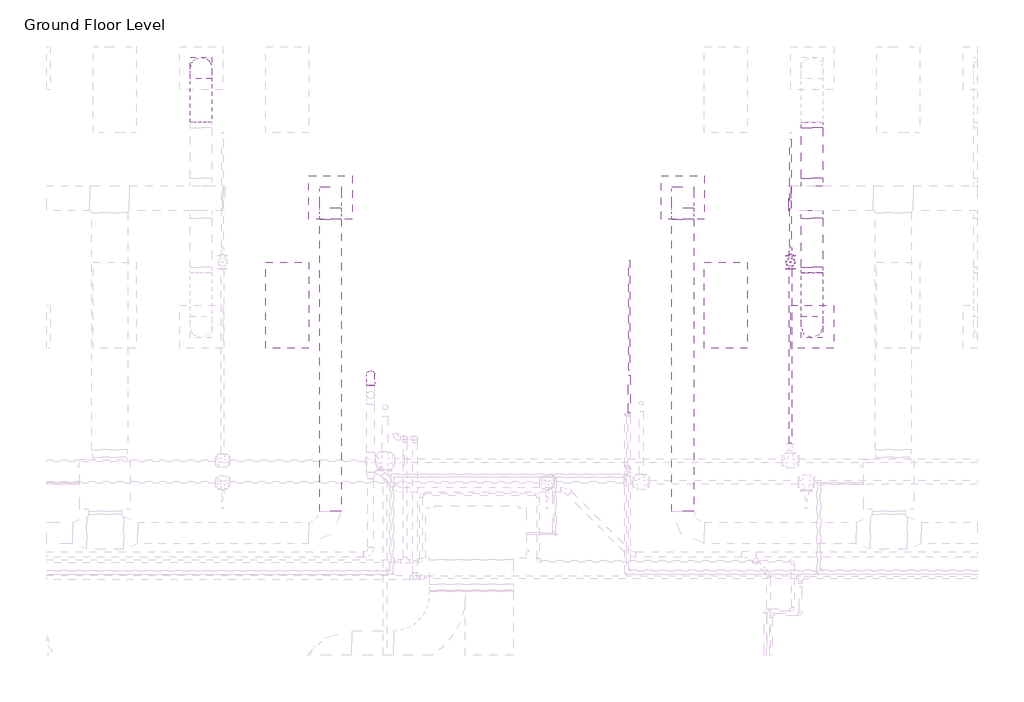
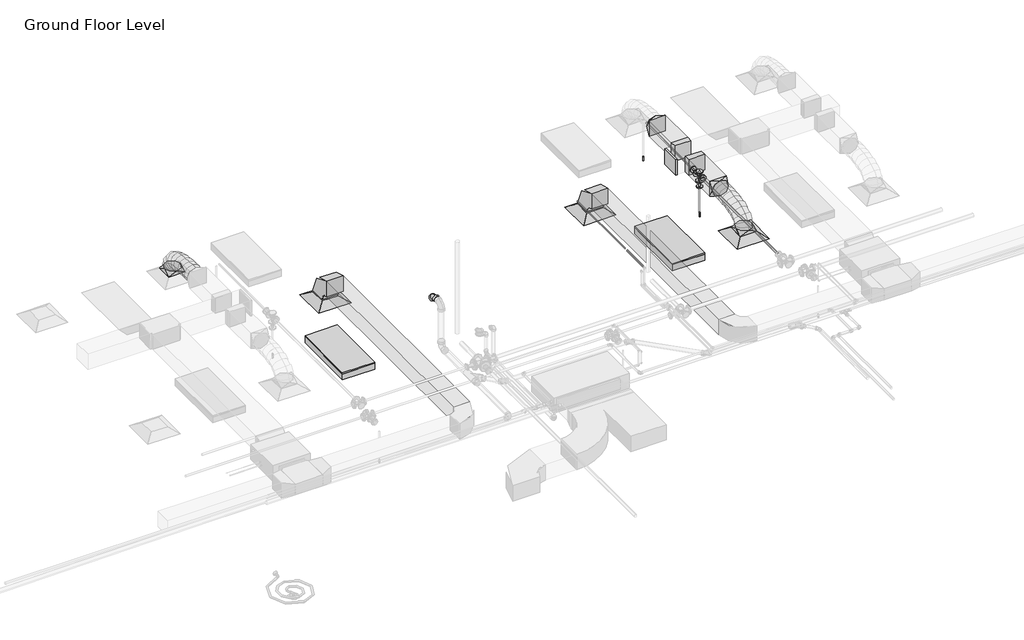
# One storey, part 58 of 74: 9 duct fittings, 8 duct segments, 6 pipe segments, 4 pipe fittings, 3 air terminals, 2 fire suppression terminals, 2 light fixtures.
"""IFC4 building model written with IfcOpenShell, lengths in millimetres."""

from ifc_helpers import new_model, si_unit, point, frame, frame_2d, origin, place, context, project, spatial, polyline, circle_curve, ellipse_curve, trimmed, segment, composite_curve, outline, extrude, transform, mapped, element, save
from ifc_brep_helpers import plane_surface, cylinder_surface, advanced_brep
from components import m_return_diffuser_600_x_600_face_300_x_300_connection_ff221211, m_rectangular_elbow_radius_1_w_618da153, m_rectangular_endcap_standard_eed78c44, m_rectangular_takeoff_standard_cb0ccb98, m_rectangular_takeoff_standard_2be5eba1, m_rectangular_to_round_transition_angle_45_degree_641efff0, m_sprinkler_dry_pendent_hosted_15_mm_dry_pendent_9bda8e11, m_troffer_light_parabolic_rectangular1_0600x1200mm_4_lamp_86473d4a, m_bend_pvc_sch_40_dwv_standard_97688ec5, m_reducer_flanged_cs_class_150_standard_d42b2106, m_tee_round_base_flanged_cs_class_150_standard_7e5987a1

model = new_model("IFC4")

# Units and contexts
model_context = context("Model", 3, world=origin())
ifc_project = project(units=[si_unit("LENGTHUNIT", "METRE", prefix="MILLI")], contexts=[model_context])

# Site, building, storey
site = spatial("IfcSite", under=ifc_project)
building = spatial("IfcBuilding", under=site)
storey = spatial("IfcBuildingStorey", under=building, Name="Ground Floor Level", Elevation=900.0)

# Air terminals
placement = place(None, origin())
m_return_diffuser_600_x_600_face_300_x_300_connection_shape = m_return_diffuser_600_x_600_face_300_x_300_connection_ff221211(model_context)
element("IfcAirTerminal", 1, ObjectType="M_Return Diffuser : 600 x 600 Face 300 x 300 Connection", at=placement, inside=storey, context=model_context, shape_type="MappedRepresentation", body=[
    mapped(m_return_diffuser_600_x_600_face_300_x_300_connection_shape, transform((-6737.2327605, 18735.2153534, 3650.0), x_axis=(1.0, 0.0, 0.0), y_axis=(0.0, 1.0, 0.0), z_axis=(0.0, 0.0, 1.0))),
])
element("IfcAirTerminal", 2, ObjectType="M_Return Diffuser : 600 x 600 Face 300 x 300 Connection", at=placement, inside=storey, context=model_context, shape_type="MappedRepresentation", body=[
    mapped(m_return_diffuser_600_x_600_face_300_x_300_connection_shape, transform((-1837.2327605, 18735.2153534, 3650.0), x_axis=(1.0, 0.0, 0.0), y_axis=(0.0, 1.0, 0.0), z_axis=(0.0, 0.0, 1.0))),
])
element("IfcAirTerminal", 3, ObjectType="M_Supply Diffuser : 600 x 600 Face 300 x 300 Connection", at=placement, inside=storey, context=model_context, shape_type="MappedRepresentation", body=[
    mapped(m_return_diffuser_600_x_600_face_300_x_300_connection_shape, transform((-37.2327605, 16935.2153534, 3650.0), x_axis=(1.0, 0.0, 0.0), y_axis=(0.0, 1.0, 0.0), z_axis=(0.0, 0.0, 1.0))),
])

# Duct fittings
m_rectangular_elbow_radius_1_w_shape = m_rectangular_elbow_radius_1_w_618da153(model_context)
element("IfcDuctFitting", 4, ObjectType="M_Rectangular Elbow - Radius : 1 W", at=placement, inside=storey, context=model_context, shape_type="MappedRepresentation", body=[
    mapped(m_rectangular_elbow_radius_1_w_shape, transform((-6737.2327605, 18735.2153534, 4075.2872564), x_axis=(0.0, 0.0, 1.0), y_axis=(0.0, -1.0, 0.0), z_axis=(1.0, 0.0, 0.0))),
])
element("IfcDuctFitting", 5, ObjectType="M_Rectangular Elbow - Radius : 1 W", at=placement, inside=storey, context=model_context, shape_type="MappedRepresentation", body=[
    mapped(m_rectangular_elbow_radius_1_w_shape, transform((-1837.2327605, 18735.2153534, 4075.2872564), x_axis=(0.0, 0.0, 1.0), y_axis=(0.0, -1.0, 0.0), z_axis=(1.0, 0.0, 0.0))),
])
m_rectangular_endcap_standard_shape = m_rectangular_endcap_standard_eed78c44(model_context)
element("IfcDuctFitting", 6, ObjectType="M_Rectangular Endcap : Standard", at=placement, inside=storey, context=model_context, shape_type="MappedRepresentation", body=[
    mapped(m_rectangular_endcap_standard_shape, transform((-337.2326293, 18724.6783949, 4099.9983101), x_axis=(-0.9999999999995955, 0.0, -8.994654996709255e-07), y_axis=(0.0, -1.0000000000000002, 0.0), z_axis=(-8.994654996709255e-07, 0.0, 0.9999999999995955))),
])
m_rectangular_takeoff_standard_shape = m_rectangular_takeoff_standard_cb0ccb98(model_context)
element("IfcDuctFitting", 7, ObjectType="M_Rectangular Takeoff : Standard", at=placement, inside=storey, context=model_context, shape_type="MappedRepresentation", body=[
    mapped(m_rectangular_takeoff_standard_shape, transform((-37.2327605, 18549.6783949, 4099.9985799), x_axis=(0.0, -1.0, 0.0), y_axis=(-1.0, 0.0, 0.0), z_axis=(0.0, 0.0, -1.0))),
])
m_rectangular_takeoff_standard_2_shape = m_rectangular_takeoff_standard_2be5eba1(model_context)
element("IfcDuctFitting", 8, ObjectType="M_Rectangular Takeoff : Standard", at=placement, inside=storey, context=model_context, shape_type="MappedRepresentation", body=[
    mapped(m_rectangular_takeoff_standard_2_shape, transform((-37.2327605, 18899.6783949, 4099.9985799), x_axis=(0.0, 1.0, 0.0), y_axis=(1.0, 0.0, 0.0), z_axis=(0.0, 0.0, -1.0))),
])
m_rectangular_to_round_transition_angle_45_degree_shape = m_rectangular_to_round_transition_angle_45_degree_641efff0(model_context)
element("IfcDuctFitting", 9, ObjectType="M_Rectangular to Round Transition - Angle : 45 Degree", at=placement, inside=storey, context=model_context, shape_type="MappedRepresentation", body=[
    mapped(m_rectangular_to_round_transition_angle_45_degree_shape, transform((-8537.2327605, 20535.2153534, 3751.6), x_axis=(0.0, 0.0, 1.0), y_axis=(-1.0, 0.0, 0.0), z_axis=(0.0, -1.0, 0.0))),
])
element("IfcDuctFitting", 10, ObjectType="M_Rectangular to Round Transition - Angle : 45 Degree", at=placement, inside=storey, context=model_context, shape_type="MappedRepresentation", body=[
    mapped(m_rectangular_to_round_transition_angle_45_degree_shape, transform((-37.2327605, 19707.878002, 4099.9985799), x_axis=(0.0, 1.0, 0.0), y_axis=(-1.0, 0.0, 0.0), z_axis=(0.0, 0.0, 1.0))),
])
element("IfcDuctFitting", 11, ObjectType="M_Rectangular to Round Transition - Angle : 45 Degree", at=placement, inside=storey, context=model_context, shape_type="MappedRepresentation", body=[
    mapped(m_rectangular_to_round_transition_angle_45_degree_shape, transform((-37.2327605, 16935.2153534, 3751.6), x_axis=(0.0, 0.0, 1.0), y_axis=(-1.0, 0.0, 0.0), z_axis=(0.0, -1.0, 0.0))),
])
element("IfcDuctFitting", 12, ObjectType="M_Rectangular to Round Transition - Angle : 45 Degree", at=placement, inside=storey, context=model_context, shape_type="MappedRepresentation", body=[
    mapped(m_rectangular_to_round_transition_angle_45_degree_shape, transform((-37.2327605, 17762.5527048, 4099.9985799), x_axis=(0.0, -1.0, 0.0), y_axis=(1.0, 0.0, 0.0), z_axis=(0.0, 0.0, 1.0))),
])

# Duct segments
element("IfcDuctSegment", 13, ObjectType="Flex - Round", at=placement, inside=storey, context=model_context, shape_type="AdvancedBrep", body=[
    advanced_brep(
    [(-8387.2327605, 20535.2153534, 3826.6), (-8537.2327605, 20385.2153534, 3826.6), (-8687.2327605, 20535.2153534, 3826.6), (-8537.2327605, 20685.2153534, 3826.6), (-8387.2327605, 20535.2153534, 3857.937778), (-8537.2327605, 20385.2153534, 3832.2944744), (-8687.2327605, 20535.2153534, 3857.937778), (-8537.2327605, 20685.2153534, 3883.5810816), (-8387.2327605, 20518.1993769, 3906.2506017), (-8537.2327605, 20384.4614978, 3834.4348684), (-8687.2327605, 20518.1993769, 3906.2506017), (-8537.2327605, 20651.937256, 3978.0663351), (-8387.2327605, 20471.0153769, 3968.7112406), (-8537.2327605, 20366.8097489, 3857.8016772), (-8687.2327605, 20471.0153769, 3968.7112406), (-8537.2327605, 20575.2210049, 4079.6208039), (-8387.2327605, 20399.4592477, 4016.0697935), (-8537.2327605, 20330.5256195, 3881.8158865), (-8687.2327605, 20399.4592477, 4016.0697935), (-8537.2327605, 20468.3928758, 4150.3237004), (-8387.2327605, 20309.3268835, 4050.4141374), (-8537.2327605, 20265.7665876, 3906.4918893), (-8687.2327605, 20309.3268835, 4050.4141374), (-8537.2327605, 20352.8871794, 4194.3363855), (-8387.2327605, 20206.4141786, 4073.8321493), (-8537.2327605, 20179.8536975, 3926.0415559), (-8687.2327605, 20206.4141786, 4073.8321493), (-8537.2327605, 20232.9746597, 4221.6227426), (-8387.2327605, 20096.5170273, 4088.411706), (-8537.2327605, 20081.3665099, 3939.1074046), (-8687.2327605, 20096.5170273, 4088.411706), (-8537.2327605, 20111.6675446, 4237.7160075), (-8387.2327605, 19985.4313238, 4096.2406846), (-8537.2327605, 19977.9262951, 3946.3975526), (-8687.2327605, 19985.4313238, 4096.2406846), (-8537.2327605, 19992.9363525, 4246.0838166), (-8387.2327605, 19878.9529624, 4099.406962), (-8537.2327605, 19876.2616453, 3949.4206879), (-8687.2327605, 19878.9529624, 4099.406962), (-8537.2327605, 19881.6442795, 4249.3932362), (-8387.2327605, 19782.8778373, 4099.9984152), (-8537.2327605, 19783.8012427, 4249.9955729), (-8687.2327605, 19782.8778373, 4099.9984152), (-8537.2327605, 19781.9544319, 3950.0012575)],
    [
        (0, 1, circle_curve(frame((-8537.2327605, 20535.2153534, 3826.6), z_axis=(0.0, 0.0, -1.0), x_axis=(1.0, 0.0, 0.0)), 150.0)),
        (1, 2, circle_curve(frame((-8537.2327605, 20535.2153534, 3826.6), z_axis=(0.0, 0.0, -1.0), x_axis=(1.0, 0.0, 0.0)), 150.0)),
        (2, 3, circle_curve(frame((-8537.2327605, 20535.2153534, 3826.6), z_axis=(0.0, 0.0, -1.0), x_axis=(1.0, 0.0, 0.0)), 150.0)),
        (3, 0, circle_curve(frame((-8537.2327605, 20535.2153534, 3826.6), z_axis=(0.0, 0.0, -1.0), x_axis=(1.0, 0.0, 0.0)), 150.0)),
        (0, 4),
        (4, 5, ellipse_curve(frame((-8537.2327605, 20535.2153534, 3857.937778), z_axis=(0.0, 0.16851066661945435, -0.985699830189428), x_axis=(0.0, -0.985699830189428, -0.16851066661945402)), 152.1761447, 150.0)),
        (5, 1),
        (5, 6, ellipse_curve(frame((-8537.2327605, 20535.2153534, 3857.937778), z_axis=(0.0, 0.16851066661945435, -0.985699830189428), x_axis=(0.0, -0.985699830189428, -0.16851066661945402)), 152.1761447, 150.0)),
        (6, 2),
        (6, 7, ellipse_curve(frame((-8537.2327605, 20535.2153534, 3857.937778), z_axis=(0.0, 0.16851066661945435, -0.985699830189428), x_axis=(0.0, -0.985699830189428, -0.16851066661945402)), 152.1761447, 150.0)),
        (7, 3),
        (7, 4, ellipse_curve(frame((-8537.2327605, 20535.2153534, 3857.937778), z_axis=(0.0, 0.16851066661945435, -0.985699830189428), x_axis=(0.0, -0.985699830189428, -0.16851066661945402)), 152.1761447, 150.0)),
        (4, 8),
        (8, 9, ellipse_curve(frame((-8537.2327605, 20518.1993769, 3906.2506017), z_axis=(0.0, 0.4730936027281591, -0.8810121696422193), x_axis=(0.0, -0.8810121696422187, -0.4730936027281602)), 151.8002631, 150.0)),
        (9, 5),
        (9, 10, ellipse_curve(frame((-8537.2327605, 20518.1993769, 3906.2506017), z_axis=(0.0, 0.4730936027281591, -0.8810121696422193), x_axis=(0.0, -0.8810121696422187, -0.4730936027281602)), 151.8002631, 150.0)),
        (10, 6),
        (10, 11, ellipse_curve(frame((-8537.2327605, 20518.1993769, 3906.2506017), z_axis=(0.0, 0.4730936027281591, -0.8810121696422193), x_axis=(0.0, -0.8810121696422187, -0.4730936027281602)), 151.8002631, 150.0)),
        (11, 7),
        (11, 8, ellipse_curve(frame((-8537.2327605, 20518.1993769, 3906.2506017), z_axis=(0.0, 0.4730936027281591, -0.8810121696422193), x_axis=(0.0, -0.8810121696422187, -0.4730936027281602)), 151.8002631, 150.0)),
        (8, 12),
        (12, 13, ellipse_curve(frame((-8537.2327605, 20471.0153769, 3968.7112406), z_axis=(0.0, 0.7287895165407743, -0.6847377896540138), x_axis=(0.0, -0.6847377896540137, -0.7287895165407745)), 152.1832584, 150.0)),
        (13, 9),
        (13, 14, ellipse_curve(frame((-8537.2327605, 20471.0153769, 3968.7112406), z_axis=(0.0, 0.7287895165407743, -0.6847377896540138), x_axis=(0.0, -0.6847377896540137, -0.7287895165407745)), 152.1832584, 150.0)),
        (14, 10),
        (14, 15, ellipse_curve(frame((-8537.2327605, 20471.0153769, 3968.7112406), z_axis=(0.0, 0.7287895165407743, -0.6847377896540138), x_axis=(0.0, -0.6847377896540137, -0.7287895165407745)), 152.1832584, 150.0)),
        (15, 11),
        (15, 12, ellipse_curve(frame((-8537.2327605, 20471.0153769, 3968.7112406), z_axis=(0.0, 0.7287895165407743, -0.6847377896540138), x_axis=(0.0, -0.6847377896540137, -0.7287895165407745)), 152.1832584, 150.0)),
        (12, 16),
        (16, 17, ellipse_curve(frame((-8537.2327605, 20399.4592477, 4016.0697935), z_axis=(0.0, 0.8895873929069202, -0.4567650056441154), x_axis=(0.0, -0.4567650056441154, -0.8895873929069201)), 150.9170521, 150.0)),
        (17, 13),
        (17, 18, ellipse_curve(frame((-8537.2327605, 20399.4592477, 4016.0697935), z_axis=(0.0, 0.8895873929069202, -0.4567650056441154), x_axis=(0.0, -0.4567650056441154, -0.8895873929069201)), 150.9170521, 150.0)),
        (18, 14),
        (18, 19, ellipse_curve(frame((-8537.2327605, 20399.4592477, 4016.0697935), z_axis=(0.0, 0.8895873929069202, -0.4567650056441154), x_axis=(0.0, -0.4567650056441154, -0.8895873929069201)), 150.9170521, 150.0)),
        (19, 15),
        (19, 16, ellipse_curve(frame((-8537.2327605, 20399.4592477, 4016.0697935), z_axis=(0.0, 0.8895873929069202, -0.4567650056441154), x_axis=(0.0, -0.4567650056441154, -0.8895873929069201)), 150.9170521, 150.0)),
        (16, 20),
        (20, 21, ellipse_curve(frame((-8537.2327605, 20309.3268835, 4050.4141374), z_axis=(0.0, 0.9571212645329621, -0.2896875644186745), x_axis=(0.0, -0.28968756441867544, -0.9571212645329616)), 150.3699202, 150.0)),
        (21, 17),
        (21, 22, ellipse_curve(frame((-8537.2327605, 20309.3268835, 4050.4141374), z_axis=(0.0, 0.9571212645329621, -0.2896875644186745), x_axis=(0.0, -0.28968756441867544, -0.9571212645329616)), 150.3699202, 150.0)),
        (22, 18),
        (22, 23, ellipse_curve(frame((-8537.2327605, 20309.3268835, 4050.4141374), z_axis=(0.0, 0.9571212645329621, -0.2896875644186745), x_axis=(0.0, -0.28968756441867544, -0.9571212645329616)), 150.3699202, 150.0)),
        (23, 19),
        (23, 20, ellipse_curve(frame((-8537.2327605, 20309.3268835, 4050.4141374), z_axis=(0.0, 0.9571212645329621, -0.2896875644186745), x_axis=(0.0, -0.28968756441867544, -0.9571212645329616)), 150.3699202, 150.0)),
        (20, 24),
        (24, 25, ellipse_curve(frame((-8537.2327605, 20206.4141786, 4073.8321493), z_axis=(0.0, 0.9842318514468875, -0.17688318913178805), x_axis=(0.0, -0.17688318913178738, -0.9842318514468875)), 150.1583119, 150.0)),
        (25, 21),
        (25, 26, ellipse_curve(frame((-8537.2327605, 20206.4141786, 4073.8321493), z_axis=(0.0, 0.9842318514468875, -0.17688318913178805), x_axis=(0.0, -0.17688318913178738, -0.9842318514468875)), 150.1583119, 150.0)),
        (26, 22),
        (26, 27, ellipse_curve(frame((-8537.2327605, 20206.4141786, 4073.8321493), z_axis=(0.0, 0.9842318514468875, -0.17688318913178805), x_axis=(0.0, -0.17688318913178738, -0.9842318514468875)), 150.1583119, 150.0)),
        (27, 23),
        (27, 24, ellipse_curve(frame((-8537.2327605, 20206.4141786, 4073.8321493), z_axis=(0.0, 0.9842318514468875, -0.17688318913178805), x_axis=(0.0, -0.17688318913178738, -0.9842318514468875)), 150.1583119, 150.0)),
        (24, 28),
        (28, 29, ellipse_curve(frame((-8537.2327605, 20096.5170273, 4088.411706), z_axis=(0.0, 0.9948909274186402, -0.10095564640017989), x_axis=(0.0, -0.10095564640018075, -0.99489092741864)), 150.0710252, 150.0)),
        (29, 25),
        (29, 30, ellipse_curve(frame((-8537.2327605, 20096.5170273, 4088.411706), z_axis=(0.0, 0.9948909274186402, -0.10095564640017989), x_axis=(0.0, -0.10095564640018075, -0.99489092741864)), 150.0710252, 150.0)),
        (30, 26),
        (30, 31, ellipse_curve(frame((-8537.2327605, 20096.5170273, 4088.411706), z_axis=(0.0, 0.9948909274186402, -0.10095564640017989), x_axis=(0.0, -0.10095564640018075, -0.99489092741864)), 150.0710252, 150.0)),
        (31, 27),
        (31, 28, ellipse_curve(frame((-8537.2327605, 20096.5170273, 4088.411706), z_axis=(0.0, 0.9948909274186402, -0.10095564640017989), x_axis=(0.0, -0.10095564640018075, -0.99489092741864)), 150.0710252, 150.0)),
        (28, 32),
        (32, 33, ellipse_curve(frame((-8537.2327605, 19985.4313238, 4096.2406846), z_axis=(0.0, 0.9987480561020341, -0.05002319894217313), x_axis=(0.0, -0.050023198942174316, -0.9987480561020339)), 150.0309623, 150.0)),
        (33, 29),
        (33, 34, ellipse_curve(frame((-8537.2327605, 19985.4313238, 4096.2406846), z_axis=(0.0, 0.9987480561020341, -0.05002319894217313), x_axis=(0.0, -0.050023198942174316, -0.9987480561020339)), 150.0309623, 150.0)),
        (34, 30),
        (34, 35, ellipse_curve(frame((-8537.2327605, 19985.4313238, 4096.2406846), z_axis=(0.0, 0.9987480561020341, -0.05002319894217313), x_axis=(0.0, -0.050023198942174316, -0.9987480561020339)), 150.0309623, 150.0)),
        (35, 31),
        (35, 32, ellipse_curve(frame((-8537.2327605, 19985.4313238, 4096.2406846), z_axis=(0.0, 0.9987480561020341, -0.05002319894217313), x_axis=(0.0, -0.050023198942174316, -0.9987480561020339)), 150.0309623, 150.0)),
        (32, 36),
        (36, 37, ellipse_curve(frame((-8537.2327605, 19878.9529624, 4099.406962), z_axis=(0.0, 0.99983904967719, -0.017940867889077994), x_axis=(0.0, -0.017940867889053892, -0.9998390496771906)), 150.0104184, 150.0)),
        (37, 33),
        (37, 38, ellipse_curve(frame((-8537.2327605, 19878.9529624, 4099.406962), z_axis=(0.0, 0.99983904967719, -0.017940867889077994), x_axis=(0.0, -0.017940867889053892, -0.9998390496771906)), 150.0104184, 150.0)),
        (38, 34),
        (38, 39, ellipse_curve(frame((-8537.2327605, 19878.9529624, 4099.406962), z_axis=(0.0, 0.99983904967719, -0.017940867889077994), x_axis=(0.0, -0.017940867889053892, -0.9998390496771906)), 150.0104184, 150.0)),
        (39, 35),
        (39, 36, ellipse_curve(frame((-8537.2327605, 19878.9529624, 4099.406962), z_axis=(0.0, 0.99983904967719, -0.017940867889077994), x_axis=(0.0, -0.017940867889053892, -0.9998390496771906)), 150.0104184, 150.0)),
        (40, 41, circle_curve(frame((-8537.2327605, 19782.8778373, 4099.9984152), z_axis=(0.0, -0.9999810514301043, 0.006156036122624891), x_axis=(1.0, 0.0, 0.0)), 150.0)),
        (41, 42, circle_curve(frame((-8537.2327605, 19782.8778373, 4099.9984152), z_axis=(0.0, -0.9999810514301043, 0.006156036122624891), x_axis=(1.0, 0.0, 0.0)), 150.0)),
        (42, 43, circle_curve(frame((-8537.2327605, 19782.8778373, 4099.9984152), z_axis=(0.0, -0.9999810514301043, 0.006156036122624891), x_axis=(1.0, 0.0, 0.0)), 150.0)),
        (43, 40, circle_curve(frame((-8537.2327605, 19782.8778373, 4099.9984152), z_axis=(0.0, -0.9999810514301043, 0.006156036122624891), x_axis=(1.0, 0.0, 0.0)), 150.0)),
        (36, 40),
        (43, 37),
        (42, 38),
        (41, 39),
    ],
    [
        plane_surface(frame((-8537.2327605, 20385.2153534, 3826.6), z_axis=(0.0, 0.0, -1.0), x_axis=(1.0, 0.0, 0.0))),
        cylinder_surface(frame((-8537.2327605, 20535.2153534, 3826.6), z_axis=(0.0, 0.0, -1.0), x_axis=(1.0, 0.0, 0.0)), 150.0),
        cylinder_surface(frame((-8537.2327605, 20535.2153534, 3857.937778), z_axis=(0.0, 0.3322018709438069, -0.9432083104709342), x_axis=(1.0, 0.0, 0.0)), 150.0),
        cylinder_surface(frame((-8537.2327605, 20518.1993769, 3906.2506017), z_axis=(0.0, 0.6027641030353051, -0.7979194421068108), x_axis=(1.0, 0.0, 0.0)), 150.0),
        cylinder_surface(frame((-8537.2327605, 20471.0153769, 3968.7112406), z_axis=(0.0, 0.8339041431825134, -0.5519093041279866), x_axis=(1.0, 0.0, 0.0)), 150.0),
        cylinder_surface(frame((-8537.2327605, 20399.4592477, 4016.0697935), z_axis=(0.0, 0.9344594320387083, -0.3560696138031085), x_axis=(1.0, 0.0, 0.0)), 150.0),
        cylinder_surface(frame((-8537.2327605, 20309.3268835, 4050.4141374), z_axis=(0.0, 0.9750739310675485, -0.22188021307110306), x_axis=(1.0, 0.0, 0.0)), 150.0),
        cylinder_surface(frame((-8537.2327605, 20206.4141786, 4073.8321493), z_axis=(0.0, 0.9913144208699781, -0.13151318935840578), x_axis=(1.0, 0.0, 0.0)), 150.0),
        cylinder_surface(frame((-8537.2327605, 20096.5170273, 4088.411706), z_axis=(0.0, 0.9975257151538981, -0.07030254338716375), x_axis=(1.0, 0.0, 0.0)), 150.0),
        cylinder_surface(frame((-8537.2327605, 19985.4313238, 4096.2406846), z_axis=(0.0, 0.9995581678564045, -0.029723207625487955), x_axis=(1.0, 0.0, 0.0)), 150.0),
        plane_surface(frame((-8537.2327605, 19781.9544319, 3950.0012575), z_axis=(0.0, -0.9999810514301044, 0.006156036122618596), x_axis=(1.0, 0.0, 0.0))),
        cylinder_surface(frame((-8537.2327605, 19878.9529624, 4099.406962), z_axis=(0.0, 0.9999810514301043, -0.006156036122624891), x_axis=(1.0, 0.0, 0.0)), 150.0),
    ],
    [
        (0, [[1, 2, 3, 4]]),
        (1, [[-1, 5, 6, 7]]),
        (1, [[-2, -7, 8, 9]]),
        (1, [[-3, -9, 10, 11]]),
        (1, [[-4, -11, 12, -5]]),
        (2, [[-6, 13, 14, 15]]),
        (2, [[-8, -15, 16, 17]]),
        (2, [[-10, -17, 18, 19]]),
        (2, [[-12, -19, 20, -13]]),
        (3, [[-14, 21, 22, 23]]),
        (3, [[-16, -23, 24, 25]]),
        (3, [[-18, -25, 26, 27]]),
        (3, [[-20, -27, 28, -21]]),
        (4, [[-22, 29, 30, 31]]),
        (4, [[-24, -31, 32, 33]]),
        (4, [[-26, -33, 34, 35]]),
        (4, [[-28, -35, 36, -29]]),
        (5, [[-30, 37, 38, 39]]),
        (5, [[-32, -39, 40, 41]]),
        (5, [[-34, -41, 42, 43]]),
        (5, [[-36, -43, 44, -37]]),
        (6, [[-38, 45, 46, 47]]),
        (6, [[-40, -47, 48, 49]]),
        (6, [[-42, -49, 50, 51]]),
        (6, [[-44, -51, 52, -45]]),
        (7, [[-46, 53, 54, 55]]),
        (7, [[-48, -55, 56, 57]]),
        (7, [[-50, -57, 58, 59]]),
        (7, [[-52, -59, 60, -53]]),
        (8, [[-54, 61, 62, 63]]),
        (8, [[-56, -63, 64, 65]]),
        (8, [[-58, -65, 66, 67]]),
        (8, [[-60, -67, 68, -61]]),
        (9, [[-62, 69, 70, 71]]),
        (9, [[-64, -71, 72, 73]]),
        (9, [[-66, -73, 74, 75]]),
        (9, [[-68, -75, 76, -69]]),
        (10, [[77, 78, 79, 80]]),
        (11, [[-70, 81, -80, 82]]),
        (11, [[-72, -82, -79, 83]]),
        (11, [[-74, -83, -78, 84]]),
        (11, [[-76, -84, -77, -81]]),
    ],
),
])
element("IfcDuctSegment", 14, ObjectType="Flex - Round", at=placement, inside=storey, context=model_context, shape_type="AdvancedBrep", body=[
    advanced_brep(
    [(112.7672395, 16935.2153534, 3826.6), (-37.2327605, 16785.2153534, 3826.6), (-187.2327605, 16935.2153534, 3826.6), (-37.2327605, 17085.2153534, 3826.6), (112.7672395, 16935.2153534, 3857.9377711), (-37.2327605, 16785.2153534, 3883.5810662), (-187.2327605, 16935.2153534, 3857.9377711), (-37.2327605, 17085.2153534, 3832.2944759), (112.7672395, 16952.2313253, 3906.2505987), (-37.2327605, 16818.4934358, 3978.0663103), (-187.2327605, 16952.2313253, 3906.2505987), (-37.2327605, 17085.9692148, 3834.4348871), (112.7672395, 16999.4153129, 3968.7112481), (-37.2327605, 16895.2096567, 4079.620783), (-187.2327605, 16999.4153129, 3968.7112481), (-37.2327605, 17103.620969, 3857.8017132), (112.7672395, 17070.9714237, 4016.0698216), (-37.2327605, 17002.0377511, 4150.3237055), (-187.2327605, 17070.9714237, 4016.0698216), (-37.2327605, 17139.9050963, 3881.8159377), (112.7672395, 17161.1037654, 4050.4141926), (-37.2327605, 17117.5434209, 4194.3364261), (-187.2327605, 17161.1037654, 4050.4141926), (-37.2327605, 17204.6641099, 3906.491959), (112.7672395, 17264.0164456, 4073.8322345), (-37.2327605, 17237.4559185, 4221.6228196), (-187.2327605, 17264.0164456, 4073.8322345), (-37.2327605, 17290.5769728, 3926.0416493), (112.7672395, 17373.9135721, 4088.4118207), (-37.2327605, 17358.7630147, 4237.7161183), (-187.2327605, 17373.9135721, 4088.4118207), (-37.2327605, 17389.0641294, 3939.1075232), (112.7672395, 17484.9992523, 4096.2408248), (-37.2327605, 17477.4941925, 4246.0839553), (-187.2327605, 17484.9992523, 4096.2408248), (-37.2327605, 17492.5043121, 3946.3976942), (112.7672395, 17591.477594, 4099.40712), (-37.2327605, 17588.7862586, 4249.393394), (-187.2327605, 17591.477594, 4099.40712), (-37.2327605, 17594.1689294, 3949.4208461), (112.7672395, 17687.5527048, 4099.9985799), (-37.2327605, 17688.4761208, 3950.0014223), (-187.2327605, 17687.5527048, 4099.9985799), (-37.2327605, 17686.6292887, 4249.9957376)],
    [
        (0, 1, circle_curve(frame((-37.2327605, 16935.2153534, 3826.6), z_axis=(0.0, 0.0, -1.0), x_axis=(1.0, 0.0, 0.0)), 150.0)),
        (1, 2, circle_curve(frame((-37.2327605, 16935.2153534, 3826.6), z_axis=(0.0, 0.0, -1.0), x_axis=(1.0, 0.0, 0.0)), 150.0)),
        (2, 3, circle_curve(frame((-37.2327605, 16935.2153534, 3826.6), z_axis=(0.0, 0.0, -1.0), x_axis=(1.0, 0.0, 0.0)), 150.0)),
        (3, 0, circle_curve(frame((-37.2327605, 16935.2153534, 3826.6), z_axis=(0.0, 0.0, -1.0), x_axis=(1.0, 0.0, 0.0)), 150.0)),
        (0, 4),
        (4, 5, ellipse_curve(frame((-37.2327605, 16935.2153534, 3857.9377711), z_axis=(0.0, -0.1685106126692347, -0.9856998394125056), x_axis=(0.0, 0.9856998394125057, -0.16851061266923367)), 152.1761433, 150.0)),
        (5, 1),
        (5, 6, ellipse_curve(frame((-37.2327605, 16935.2153534, 3857.9377711), z_axis=(0.0, -0.1685106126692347, -0.9856998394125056), x_axis=(0.0, 0.9856998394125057, -0.16851061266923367)), 152.1761433, 150.0)),
        (6, 2),
        (6, 7, ellipse_curve(frame((-37.2327605, 16935.2153534, 3857.9377711), z_axis=(0.0, -0.1685106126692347, -0.9856998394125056), x_axis=(0.0, 0.9856998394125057, -0.16851061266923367)), 152.1761433, 150.0)),
        (7, 3),
        (7, 4, ellipse_curve(frame((-37.2327605, 16935.2153534, 3857.9377711), z_axis=(0.0, -0.1685106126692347, -0.9856998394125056), x_axis=(0.0, 0.9856998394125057, -0.16851061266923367)), 152.1761433, 150.0)),
        (4, 8),
        (8, 9, ellipse_curve(frame((-37.2327605, 16952.2313253, 3906.2505987), z_axis=(0.0, -0.4730934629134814, -0.8810122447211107), x_axis=(0.0, 0.8810122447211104, -0.473093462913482)), 151.8002619, 150.0)),
        (9, 5),
        (9, 10, ellipse_curve(frame((-37.2327605, 16952.2313253, 3906.2505987), z_axis=(0.0, -0.4730934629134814, -0.8810122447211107), x_axis=(0.0, 0.8810122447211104, -0.473093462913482)), 151.8002619, 150.0)),
        (10, 6),
        (10, 11, ellipse_curve(frame((-37.2327605, 16952.2313253, 3906.2505987), z_axis=(0.0, -0.4730934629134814, -0.8810122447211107), x_axis=(0.0, 0.8810122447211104, -0.473093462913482)), 151.8002619, 150.0)),
        (11, 7),
        (11, 8, ellipse_curve(frame((-37.2327605, 16952.2313253, 3906.2505987), z_axis=(0.0, -0.4730934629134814, -0.8810122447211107), x_axis=(0.0, 0.8810122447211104, -0.473093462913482)), 151.8002619, 150.0)),
        (8, 12),
        (12, 13, ellipse_curve(frame((-37.2327605, 16999.4153129, 3968.7112481), z_axis=(0.0, -0.728789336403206, -0.6847379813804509), x_axis=(0.0, 0.6847379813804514, -0.7287893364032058)), 152.183257, 150.0)),
        (13, 9),
        (13, 14, ellipse_curve(frame((-37.2327605, 16999.4153129, 3968.7112481), z_axis=(0.0, -0.728789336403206, -0.6847379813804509), x_axis=(0.0, 0.6847379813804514, -0.7287893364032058)), 152.183257, 150.0)),
        (14, 10),
        (14, 15, ellipse_curve(frame((-37.2327605, 16999.4153129, 3968.7112481), z_axis=(0.0, -0.728789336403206, -0.6847379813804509), x_axis=(0.0, 0.6847379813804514, -0.7287893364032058)), 152.183257, 150.0)),
        (15, 11),
        (15, 12, ellipse_curve(frame((-37.2327605, 16999.4153129, 3968.7112481), z_axis=(0.0, -0.728789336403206, -0.6847379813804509), x_axis=(0.0, 0.6847379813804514, -0.7287893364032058)), 152.183257, 150.0)),
        (12, 16),
        (16, 17, ellipse_curve(frame((-37.2327605, 17070.9714237, 4016.0698216), z_axis=(0.0, -0.8895872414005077, -0.45676530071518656), x_axis=(0.0, 0.456765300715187, -0.8895872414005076)), 150.9170519, 150.0)),
        (17, 13),
        (17, 18, ellipse_curve(frame((-37.2327605, 17070.9714237, 4016.0698216), z_axis=(0.0, -0.8895872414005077, -0.45676530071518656), x_axis=(0.0, 0.456765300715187, -0.8895872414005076)), 150.9170519, 150.0)),
        (18, 14),
        (18, 19, ellipse_curve(frame((-37.2327605, 17070.9714237, 4016.0698216), z_axis=(0.0, -0.8895872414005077, -0.45676530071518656), x_axis=(0.0, 0.456765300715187, -0.8895872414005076)), 150.9170519, 150.0)),
        (19, 15),
        (19, 16, ellipse_curve(frame((-37.2327605, 17070.9714237, 4016.0698216), z_axis=(0.0, -0.8895872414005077, -0.45676530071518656), x_axis=(0.0, 0.456765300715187, -0.8895872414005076)), 150.9170519, 150.0)),
        (16, 20),
        (20, 21, ellipse_curve(frame((-37.2327605, 17161.1037654, 4050.4141926), z_axis=(0.0, -0.9571211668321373, -0.2896878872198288), x_axis=(0.0, 0.28968788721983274, -0.9571211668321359)), 150.3699202, 150.0)),
        (21, 17),
        (21, 22, ellipse_curve(frame((-37.2327605, 17161.1037654, 4050.4141926), z_axis=(0.0, -0.9571211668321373, -0.2896878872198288), x_axis=(0.0, 0.28968788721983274, -0.9571211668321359)), 150.3699202, 150.0)),
        (22, 18),
        (22, 23, ellipse_curve(frame((-37.2327605, 17161.1037654, 4050.4141926), z_axis=(0.0, -0.9571211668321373, -0.2896878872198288), x_axis=(0.0, 0.28968788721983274, -0.9571211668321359)), 150.3699202, 150.0)),
        (23, 19),
        (23, 20, ellipse_curve(frame((-37.2327605, 17161.1037654, 4050.4141926), z_axis=(0.0, -0.9571211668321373, -0.2896878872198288), x_axis=(0.0, 0.28968788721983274, -0.9571211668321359)), 150.3699202, 150.0)),
        (20, 24),
        (24, 25, ellipse_curve(frame((-37.2327605, 17264.0164456, 4073.8322345), z_axis=(0.0, -0.9842317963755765, -0.17688349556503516), x_axis=(0.0, 0.1768834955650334, -0.9842317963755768)), 150.158312, 150.0)),
        (25, 21),
        (25, 26, ellipse_curve(frame((-37.2327605, 17264.0164456, 4073.8322345), z_axis=(0.0, -0.9842317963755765, -0.17688349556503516), x_axis=(0.0, 0.1768834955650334, -0.9842317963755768)), 150.158312, 150.0)),
        (26, 22),
        (26, 27, ellipse_curve(frame((-37.2327605, 17264.0164456, 4073.8322345), z_axis=(0.0, -0.9842317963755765, -0.17688349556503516), x_axis=(0.0, 0.1768834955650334, -0.9842317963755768)), 150.158312, 150.0)),
        (27, 23),
        (27, 24, ellipse_curve(frame((-37.2327605, 17264.0164456, 4073.8322345), z_axis=(0.0, -0.9842317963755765, -0.17688349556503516), x_axis=(0.0, 0.1768834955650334, -0.9842317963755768)), 150.158312, 150.0)),
        (24, 28),
        (28, 29, ellipse_curve(frame((-37.2327605, 17373.9135721, 4088.4118207), z_axis=(0.0, -0.9948909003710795, -0.10095591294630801), x_axis=(0.0, 0.10095591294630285, -0.9948909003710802)), 150.0710253, 150.0)),
        (29, 25),
        (29, 30, ellipse_curve(frame((-37.2327605, 17373.9135721, 4088.4118207), z_axis=(0.0, -0.9948909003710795, -0.10095591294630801), x_axis=(0.0, 0.10095591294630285, -0.9948909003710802)), 150.0710253, 150.0)),
        (30, 26),
        (30, 31, ellipse_curve(frame((-37.2327605, 17373.9135721, 4088.4118207), z_axis=(0.0, -0.9948909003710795, -0.10095591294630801), x_axis=(0.0, 0.10095591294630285, -0.9948909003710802)), 150.0710253, 150.0)),
        (31, 27),
        (31, 28, ellipse_curve(frame((-37.2327605, 17373.9135721, 4088.4118207), z_axis=(0.0, -0.9948909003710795, -0.10095591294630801), x_axis=(0.0, 0.10095591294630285, -0.9948909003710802)), 150.0710253, 150.0)),
        (28, 32),
        (32, 33, ellipse_curve(frame((-37.2327605, 17484.9992523, 4096.2408248), z_axis=(0.0, -0.998748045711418, -0.05002340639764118), x_axis=(0.0, 0.050023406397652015, -0.9987480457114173)), 150.0309624, 150.0)),
        (33, 29),
        (33, 34, ellipse_curve(frame((-37.2327605, 17484.9992523, 4096.2408248), z_axis=(0.0, -0.998748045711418, -0.05002340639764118), x_axis=(0.0, 0.050023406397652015, -0.9987480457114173)), 150.0309624, 150.0)),
        (34, 30),
        (34, 35, ellipse_curve(frame((-37.2327605, 17484.9992523, 4096.2408248), z_axis=(0.0, -0.998748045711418, -0.05002340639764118), x_axis=(0.0, 0.050023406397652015, -0.9987480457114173)), 150.0309624, 150.0)),
        (35, 31),
        (35, 32, ellipse_curve(frame((-37.2327605, 17484.9992523, 4096.2408248), z_axis=(0.0, -0.998748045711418, -0.05002340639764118), x_axis=(0.0, 0.050023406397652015, -0.9987480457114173)), 150.0309624, 150.0)),
        (32, 36),
        (36, 37, ellipse_curve(frame((-37.2327605, 17591.477594, 4099.40712), z_axis=(0.0, -0.9998390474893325, -0.017940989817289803), x_axis=(0.0, 0.017940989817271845, -0.9998390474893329)), 150.0104185, 150.0)),
        (37, 33),
        (37, 38, ellipse_curve(frame((-37.2327605, 17591.477594, 4099.40712), z_axis=(0.0, -0.9998390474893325, -0.017940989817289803), x_axis=(0.0, 0.017940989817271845, -0.9998390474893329)), 150.0104185, 150.0)),
        (38, 34),
        (38, 39, ellipse_curve(frame((-37.2327605, 17591.477594, 4099.40712), z_axis=(0.0, -0.9998390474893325, -0.017940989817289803), x_axis=(0.0, 0.017940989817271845, -0.9998390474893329)), 150.0104185, 150.0)),
        (39, 35),
        (39, 36, ellipse_curve(frame((-37.2327605, 17591.477594, 4099.40712), z_axis=(0.0, -0.9998390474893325, -0.017940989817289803), x_axis=(0.0, 0.017940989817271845, -0.9998390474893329)), 150.0104185, 150.0)),
        (40, 41, circle_curve(frame((-37.2327605, 17687.5527048, 4099.9985799), z_axis=(0.0, 0.9999810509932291, 0.006156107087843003), x_axis=(1.0, 0.0, 0.0)), 150.0)),
        (41, 42, circle_curve(frame((-37.2327605, 17687.5527048, 4099.9985799), z_axis=(0.0, 0.9999810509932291, 0.006156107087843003), x_axis=(1.0, 0.0, 0.0)), 150.0)),
        (42, 43, circle_curve(frame((-37.2327605, 17687.5527048, 4099.9985799), z_axis=(0.0, 0.9999810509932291, 0.006156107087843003), x_axis=(1.0, 0.0, 0.0)), 150.0)),
        (43, 40, circle_curve(frame((-37.2327605, 17687.5527048, 4099.9985799), z_axis=(0.0, 0.9999810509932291, 0.006156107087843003), x_axis=(1.0, 0.0, 0.0)), 150.0)),
        (36, 40),
        (43, 37),
        (42, 38),
        (41, 39),
    ],
    [
        plane_surface(frame((-37.2327605, 16785.2153534, 3826.6), z_axis=(0.0, 0.0, -1.0), x_axis=(1.0, 0.0, 0.0))),
        cylinder_surface(frame((-37.2327605, 16935.2153534, 3826.6), z_axis=(0.0, 0.0, -1.0), x_axis=(1.0, 0.0, 0.0)), 150.0),
        cylinder_surface(frame((-37.2327605, 16935.2153534, 3857.9377711), z_axis=(0.0, -0.3322017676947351, -0.9432083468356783), x_axis=(1.0, 0.0, 0.0)), 150.0),
        cylinder_surface(frame((-37.2327605, 16952.2313253, 3906.2505987), z_axis=(0.0, -0.6027639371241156, -0.7979195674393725), x_axis=(1.0, 0.0, 0.0)), 150.0),
        cylinder_surface(frame((-37.2327605, 16999.4153129, 3968.7112481), z_axis=(0.0, -0.8339039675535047, -0.551909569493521), x_axis=(1.0, 0.0, 0.0)), 150.0),
        cylinder_surface(frame((-37.2327605, 17070.9714237, 4016.0698216), z_axis=(0.0, -0.9344593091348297, -0.356069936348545), x_axis=(1.0, 0.0, 0.0)), 150.0),
        cylinder_surface(frame((-37.2327605, 17161.1037654, 4050.4141926), z_axis=(0.0, -0.9750738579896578, -0.22188053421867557), x_axis=(1.0, 0.0, 0.0)), 150.0),
        cylinder_surface(frame((-37.2327605, 17264.0164456, 4073.8322345), z_axis=(0.0, -0.9913143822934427, -0.13151348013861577), x_axis=(1.0, 0.0, 0.0)), 150.0),
        cylinder_surface(frame((-37.2327605, 17373.9135721, 4088.4118207), z_axis=(0.0, -0.9975256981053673, -0.07030278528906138), x_axis=(1.0, 0.0, 0.0)), 150.0),
        cylinder_surface(frame((-37.2327605, 17484.9992523, 4096.2408248), z_axis=(0.0, -0.9995581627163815, -0.029723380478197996), x_axis=(1.0, 0.0, 0.0)), 150.0),
        plane_surface(frame((-37.2327605, 17686.6292887, 4249.9957376), z_axis=(0.0, 0.9999810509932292, 0.006156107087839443), x_axis=(1.0, 0.0, 0.0))),
        cylinder_surface(frame((-37.2327605, 17591.477594, 4099.40712), z_axis=(0.0, -0.9999810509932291, -0.006156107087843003), x_axis=(1.0, 0.0, 0.0)), 150.0),
    ],
    [
        (0, [[1, 2, 3, 4]]),
        (1, [[-1, 5, 6, 7]]),
        (1, [[-2, -7, 8, 9]]),
        (1, [[-3, -9, 10, 11]]),
        (1, [[-4, -11, 12, -5]]),
        (2, [[-6, 13, 14, 15]]),
        (2, [[-8, -15, 16, 17]]),
        (2, [[-10, -17, 18, 19]]),
        (2, [[-12, -19, 20, -13]]),
        (3, [[-14, 21, 22, 23]]),
        (3, [[-16, -23, 24, 25]]),
        (3, [[-18, -25, 26, 27]]),
        (3, [[-20, -27, 28, -21]]),
        (4, [[-22, 29, 30, 31]]),
        (4, [[-24, -31, 32, 33]]),
        (4, [[-26, -33, 34, 35]]),
        (4, [[-28, -35, 36, -29]]),
        (5, [[-30, 37, 38, 39]]),
        (5, [[-32, -39, 40, 41]]),
        (5, [[-34, -41, 42, 43]]),
        (5, [[-36, -43, 44, -37]]),
        (6, [[-38, 45, 46, 47]]),
        (6, [[-40, -47, 48, 49]]),
        (6, [[-42, -49, 50, 51]]),
        (6, [[-44, -51, 52, -45]]),
        (7, [[-46, 53, 54, 55]]),
        (7, [[-48, -55, 56, 57]]),
        (7, [[-50, -57, 58, 59]]),
        (7, [[-52, -59, 60, -53]]),
        (8, [[-54, 61, 62, 63]]),
        (8, [[-56, -63, 64, 65]]),
        (8, [[-58, -65, 66, 67]]),
        (8, [[-60, -67, 68, -61]]),
        (9, [[-62, 69, 70, 71]]),
        (9, [[-64, -71, 72, 73]]),
        (9, [[-66, -73, 74, 75]]),
        (9, [[-68, -75, 76, -69]]),
        (10, [[77, 78, 79, 80]]),
        (11, [[-70, 81, -80, 82]]),
        (11, [[-72, -82, -79, 83]]),
        (11, [[-74, -83, -78, 84]]),
        (11, [[-76, -84, -77, -81]]),
    ],
),
])
element("IfcDuctSegment", 15, ObjectType="Radius Elbows / Taps", at=placement, inside=storey, context=model_context, shape_type="SweptSolid", body=[
    extrude(outline(polyline([(-6587.2327605, 14369.8153534), (-6887.2327605, 14369.8153534), (-6887.2327605, 18435.2153534), (-6587.2327605, 18435.2153534), (-6587.2327605, 14369.8153534)])), frame((0.0, 0.0, 3925.2872564), z_axis=(0.0, 0.0, 1.0), x_axis=(1.0, 0.0, 0.0)), (0.0, 0.0, 1.0), 300.0),
])
element("IfcDuctSegment", 16, ObjectType="Radius Elbows / Taps", at=placement, inside=storey, context=model_context, shape_type="SweptSolid", body=[
    extrude(outline(polyline([(-1687.2327605, 14369.8153534), (-1987.2327605, 14369.8153534), (-1987.2327605, 18435.2153534), (-1687.2327605, 18435.2153534), (-1687.2327605, 14369.8153534)])), frame((0.0, 0.0, 3925.2872564), z_axis=(0.0, 0.0, 1.0), x_axis=(1.0, 0.0, 0.0)), (0.0, 0.0, 1.0), 300.0),
])
element("IfcDuctSegment", 17, ObjectType="Radius Elbows / Taps", at=placement, inside=storey, context=model_context, shape_type="SweptSolid", body=[
    extrude(outline(polyline([(-6587.2327605, 18585.2153534), (-6887.2327605, 18585.2153534), (-6887.2327605, 18885.2153534), (-6587.2327605, 18885.2153534), (-6587.2327605, 18585.2153534)])), frame((0.0, 0.0, 3751.6), z_axis=(0.0, 0.0, 1.0), x_axis=(1.0, 0.0, 0.0)), (0.0, 0.0, 1.0), 23.6872564),
])
element("IfcDuctSegment", 18, ObjectType="Radius Elbows / Taps", at=placement, inside=storey, context=model_context, shape_type="SweptSolid", body=[
    extrude(outline(polyline([(-1687.2327605, 18585.2153534), (-1987.2327605, 18585.2153534), (-1987.2327605, 18885.2153534), (-1687.2327605, 18885.2153534), (-1687.2327605, 18585.2153534)])), frame((0.0, 0.0, 3751.6), z_axis=(0.0, 0.0, 1.0), x_axis=(1.0, 0.0, 0.0)), (0.0, 0.0, 1.0), 23.6872564),
])
element("IfcDuctSegment", 19, ObjectType="Radius Elbows / Taps", at=placement, inside=storey, context=model_context, shape_type="SweptSolid", body=[
    extrude(outline(polyline([(112.7672395, 19001.2783949), (-187.2327605, 19001.2783949), (-187.2327605, 19707.878002), (112.7672395, 19707.878002), (112.7672395, 19001.2783949)])), frame((0.0, 0.0, 3949.9985799), z_axis=(0.0, 0.0, 1.0), x_axis=(1.0, 0.0, 0.0)), (0.0, 0.0, 1.0), 300.0),
])
element("IfcDuctSegment", 20, ObjectType="Radius Elbows / Taps", at=placement, inside=storey, context=model_context, shape_type="SweptSolid", body=[
    extrude(outline(polyline([(-187.2327605, 18448.0783949), (112.7672395, 18448.0783949), (112.7672395, 17762.5527048), (-187.2327605, 17762.5527048), (-187.2327605, 18448.0783949)])), frame((0.0, 0.0, 3949.9985799), z_axis=(0.0, 0.0, 1.0), x_axis=(1.0, 0.0, 0.0)), (0.0, 0.0, 1.0), 300.0),
])

# Fire suppression terminals
m_sprinkler_dry_pendent_hosted_15_mm_dry_pendent_shape = m_sprinkler_dry_pendent_hosted_15_mm_dry_pendent_9bda8e11(model_context)
element("IfcFireSuppressionTerminal", 21, ObjectType="M_Sprinkler - Dry - Pendent - Hosted : 15 mm Dry Pendent", at=placement, inside=storey, context=model_context, shape_type="MappedRepresentation", body=[
    mapped(m_sprinkler_dry_pendent_hosted_15_mm_dry_pendent_shape, transform((-337.2327605, 19635.2153534, 3650.0), x_axis=(1.0, 0.0, 0.0), y_axis=(0.0, -1.0, 0.0), z_axis=(0.0, 0.0, -1.0))),
])
element("IfcFireSuppressionTerminal", 22, ObjectType="M_Sprinkler - Dry - Pendent - Hosted : 15 mm Dry Pendent", at=placement, inside=storey, context=model_context, shape_type="MappedRepresentation", body=[
    mapped(m_sprinkler_dry_pendent_hosted_15_mm_dry_pendent_shape, transform((-337.2327605, 17835.2153534, 3650.0), x_axis=(1.0, 0.0, 0.0), y_axis=(0.0, -1.0, 0.0), z_axis=(0.0, 0.0, -1.0))),
])

# Light fixtures
m_troffer_light_parabolic_rectangular1_0600x1200mm_4_lamp_shape = m_troffer_light_parabolic_rectangular1_0600x1200mm_4_lamp_86473d4a(model_context)
element("IfcLightFixture", 23, ObjectType="M_Troffer Light - Parabolic Rectangular1 : 0600x1200mm(4 Lamp) - 277V 2", at=placement, inside=storey, context=model_context, shape_type="MappedRepresentation", body=[
    mapped(m_troffer_light_parabolic_rectangular1_0600x1200mm_4_lamp_shape, transform((-7396.6986926, 17253.918855, 3650.0), x_axis=(0.0, 1.0, 0.0), y_axis=(-1.0, 0.0, 0.0), z_axis=(0.0, 0.0, 1.0))),
])
element("IfcLightFixture", 24, ObjectType="M_Troffer Light - Parabolic Rectangular1 : 0600x1200mm(4 Lamp) - 277V 2", at=placement, inside=storey, context=model_context, shape_type="MappedRepresentation", body=[
    mapped(m_troffer_light_parabolic_rectangular1_0600x1200mm_4_lamp_shape, transform((-1296.6986926, 17253.918855, 3650.0), x_axis=(0.0, 1.0, 0.0), y_axis=(-1.0, 0.0, 0.0), z_axis=(0.0, 0.0, 1.0))),
])

# Pipe fittings
m_bend_pvc_sch_40_dwv_standard_shape = m_bend_pvc_sch_40_dwv_standard_97688ec5(model_context)
element("IfcPipeFitting", 25, ObjectType="M_Bend - PVC - Sch 40 - DWV : Standard", at=placement, inside=storey, context=model_context, shape_type="MappedRepresentation", body=[
    mapped(m_bend_pvc_sch_40_dwv_standard_shape, transform((-6179.1776394, 16218.4450744, 5030.0015941), x_axis=(0.0, 0.9999500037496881, 0.009999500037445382), y_axis=(0.0, 0.009999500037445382, -0.9999500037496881), z_axis=(-1.0, 0.0, 0.0))),
])
m_reducer_flanged_cs_class_150_standard_shape = m_reducer_flanged_cs_class_150_standard_d42b2106(model_context)
element("IfcPipeFitting", 26, ObjectType="M_Reducer - Flanged - CS - Class 150 : Standard", at=placement, inside=storey, context=model_context, shape_type="MappedRepresentation", body=[
    mapped(m_reducer_flanged_cs_class_150_standard_shape, transform((-337.2327605, 17935.9239471, 4360.0), x_axis=(0.0, 1.0, 0.0), y_axis=(-1.0, 0.0, 0.0), z_axis=(0.0, 0.0, 1.0))),
])
element("IfcPipeFitting", 27, ObjectType="M_Reducer - Flanged - CS - Class 150 : Standard", at=placement, inside=storey, context=model_context, shape_type="MappedRepresentation", body=[
    mapped(m_reducer_flanged_cs_class_150_standard_shape, transform((-337.2327605, 17835.2153534, 4259.2914063), x_axis=(0.0, 0.0, -1.0), y_axis=(-1.0, 0.0, 0.0), z_axis=(0.0, 1.0, 0.0))),
])
m_tee_round_base_flanged_cs_class_150_standard_shape = m_tee_round_base_flanged_cs_class_150_standard_7e5987a1(model_context)
element("IfcPipeFitting", 28, ObjectType="M_Tee Round Base - Flanged - CS - Class 150 : Standard", at=placement, inside=storey, context=model_context, shape_type="MappedRepresentation", body=[
    mapped(m_tee_round_base_flanged_cs_class_150_standard_shape, transform((-337.2327605, 17835.2153534, 4360.0), x_axis=(0.0, 1.0, 0.0), y_axis=(0.0, 0.0, 1.0), z_axis=(1.0, 0.0, 0.0))),
])

# Pipe segments
element("IfcPipeSegment", 29, ObjectType="Copper", at=placement, inside=storey, context=model_context, shape_type="SweptSolid", body=[
    extrude(outline(composite_curve([segment(trimmed(circle_curve(frame_2d((4634.3568617, -2579.6952605)), 8.1), [point((4634.3568617, -2587.7952605))], [point((4626.2568617, -2579.6952605))], False, "CARTESIAN"), True, "CONTINUOUS"), segment(trimmed(circle_curve(frame_2d((4634.3568617, -2579.6952605)), 8.1), [point((4626.2568617, -2579.6952605))], [point((4634.3568617, -2571.5952605))], False, "CARTESIAN"), True, "CONTINUOUS"), segment(trimmed(circle_curve(frame_2d((4634.3568617, -2579.6952605)), 8.1), [point((4634.3568617, -2571.5952605))], [point((4642.4568617, -2579.6952605))], False, "CARTESIAN"), True, "CONTINUOUS"), segment(trimmed(circle_curve(frame_2d((4634.3568617, -2579.6952605)), 8.1), [point((4642.4568617, -2579.6952605))], [point((4634.3568617, -2587.7952605))], False, "CARTESIAN"), True, "CONTINUOUS")], self_intersect=False)), frame((0.0, 16328.5403578, 0.0), z_axis=(0.0, 1.0, 0.0), x_axis=(0.0, 0.0, 1.0)), (0.0, 0.0, 1.0), 1536.3864029),
])
element("IfcPipeSegment", 30, ObjectType="Copper", at=placement, inside=storey, context=model_context, shape_type="SweptSolid", body=[
    extrude(outline(composite_curve([segment(trimmed(circle_curve(frame_2d((4634.3568617, -2579.6952605)), 14.5), [point((4634.3568617, -2565.1952605))], [point((4648.8568617, -2579.6952605))], False, "CARTESIAN"), True, "CONTINUOUS"), segment(trimmed(circle_curve(frame_2d((4634.3568617, -2579.6952605)), 14.5), [point((4648.8568617, -2579.6952605))], [point((4634.3568617, -2594.1952605))], False, "CARTESIAN"), True, "CONTINUOUS"), segment(trimmed(circle_curve(frame_2d((4634.3568617, -2579.6952605)), 14.5), [point((4634.3568617, -2594.1952605))], [point((4619.8568617, -2579.6952605))], False, "CARTESIAN"), True, "CONTINUOUS"), segment(trimmed(circle_curve(frame_2d((4634.3568617, -2579.6952605)), 14.5), [point((4619.8568617, -2579.6952605))], [point((4634.3568617, -2565.1952605))], False, "CARTESIAN"), True, "CONTINUOUS")], self_intersect=False)), frame((0.0, 15738.4403534, 0.0), z_axis=(0.0, 1.0, 0.0), x_axis=(0.0, 0.0, 1.0)), (0.0, 0.0, 1.0), 525.0125044),
])
element("IfcPipeSegment", 31, ObjectType="PVC - DWV", at=placement, inside=storey, context=model_context, shape_type="SweptSolid", body=[
    extrude(outline(composite_curve([segment(trimmed(circle_curve(frame_2d((0.0, 50.8)), 50.8), [point((50.8, 50.8))], [point((0.0, 0.0))], False, "CARTESIAN"), True, "CONTINUOUS"), segment(trimmed(circle_curve(frame_2d((0.0, 50.8)), 50.8), [point((0.0, 0.0))], [point((-50.8, 50.8))], False, "CARTESIAN"), True, "CONTINUOUS"), segment(trimmed(circle_curve(frame_2d((0.0, 50.8)), 50.8), [point((-50.8, 50.8))], [point((0.0, 101.6))], False, "CARTESIAN"), True, "CONTINUOUS"), segment(trimmed(circle_curve(frame_2d((0.0, 50.8)), 50.8), [point((0.0, 101.6))], [point((50.8, 50.8))], False, "CARTESIAN"), True, "CONTINUOUS")], self_intersect=False)), frame((-6179.1776394, 16116.3721218, 5079.7834046), z_axis=(0.0, 0.9999500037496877, 0.009999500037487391), x_axis=(1.0, 0.0, 0.0)), (0.0, 0.0, 1.0), 5.0778686),
])
element("IfcPipeSegment", 32, ObjectType="Steel flanged", at=placement, inside=storey, context=model_context, shape_type="SweptSolid", body=[
    extrude(outline(composite_curve([segment(trimmed(circle_curve(frame_2d((-337.2327605, 17835.2153534)), 10.668), [point((-347.9007605, 17835.2153534))], [point((-337.2327605, 17845.8833534))], False, "CARTESIAN"), True, "CONTINUOUS"), segment(trimmed(circle_curve(frame_2d((-337.2327605, 17835.2153534)), 10.668), [point((-337.2327605, 17845.8833534))], [point((-326.5647605, 17835.2153534))], False, "CARTESIAN"), True, "CONTINUOUS"), segment(trimmed(circle_curve(frame_2d((-337.2327605, 17835.2153534)), 10.668), [point((-326.5647605, 17835.2153534))], [point((-337.2327605, 17824.5473534))], False, "CARTESIAN"), True, "CONTINUOUS"), segment(trimmed(circle_curve(frame_2d((-337.2327605, 17835.2153534)), 10.668), [point((-337.2327605, 17824.5473534))], [point((-347.9007605, 17835.2153534))], False, "CARTESIAN"), True, "CONTINUOUS")], self_intersect=False)), frame((0.0, 0.0, 3650.0), z_axis=(0.0, 0.0, 1.0), x_axis=(1.0, 0.0, 0.0)), (0.0, 0.0, 1.0), 495.2914062),
])
element("IfcPipeSegment", 33, ObjectType="Steel flanged", at=placement, inside=storey, context=model_context, shape_type="SweptSolid", body=[
    extrude(outline(composite_curve([segment(trimmed(circle_curve(frame_2d((4360.0, -337.2327605)), 16.7005), [point((4360.0, -353.9332605))], [point((4343.2995, -337.2327605))], False, "CARTESIAN"), True, "CONTINUOUS"), segment(trimmed(circle_curve(frame_2d((4360.0, -337.2327605)), 16.7005), [point((4343.2995, -337.2327605))], [point((4360.0, -320.5322605))], False, "CARTESIAN"), True, "CONTINUOUS"), segment(trimmed(circle_curve(frame_2d((4360.0, -337.2327605)), 16.7005), [point((4360.0, -320.5322605))], [point((4376.7005, -337.2327605))], False, "CARTESIAN"), True, "CONTINUOUS"), segment(trimmed(circle_curve(frame_2d((4360.0, -337.2327605)), 16.7005), [point((4376.7005, -337.2327605))], [point((4360.0, -353.9332605))], False, "CARTESIAN"), True, "CONTINUOUS")], self_intersect=False)), frame((0.0, 15314.2009828, 0.0), z_axis=(0.0, 1.0, 0.0), x_axis=(0.0, 0.0, 1.0)), (0.0, 0.0, 1.0), 2420.3057768),
])
element("IfcPipeSegment", 34, ObjectType="Steel flanged", at=placement, inside=storey, context=model_context, shape_type="SweptSolid", body=[
    extrude(outline(composite_curve([segment(trimmed(circle_curve(frame_2d((4360.0, -337.2327605)), 10.668), [point((4360.0, -347.9007605))], [point((4349.332, -337.2327605))], False, "CARTESIAN"), True, "CONTINUOUS"), segment(trimmed(circle_curve(frame_2d((4360.0, -337.2327605)), 10.668), [point((4349.332, -337.2327605))], [point((4360.0, -326.5647605))], False, "CARTESIAN"), True, "CONTINUOUS"), segment(trimmed(circle_curve(frame_2d((4360.0, -337.2327605)), 10.668), [point((4360.0, -326.5647605))], [point((4370.668, -337.2327605))], False, "CARTESIAN"), True, "CONTINUOUS"), segment(trimmed(circle_curve(frame_2d((4360.0, -337.2327605)), 10.668), [point((4370.668, -337.2327605))], [point((4360.0, -347.9007605))], False, "CARTESIAN"), True, "CONTINUOUS")], self_intersect=False)), frame((0.0, 18049.9239471, 0.0), z_axis=(0.0, 1.0, 0.0), x_axis=(0.0, 0.0, 1.0)), (0.0, 0.0, 1.0), 1492.2828125),
])

save(model, "model.ifc")
